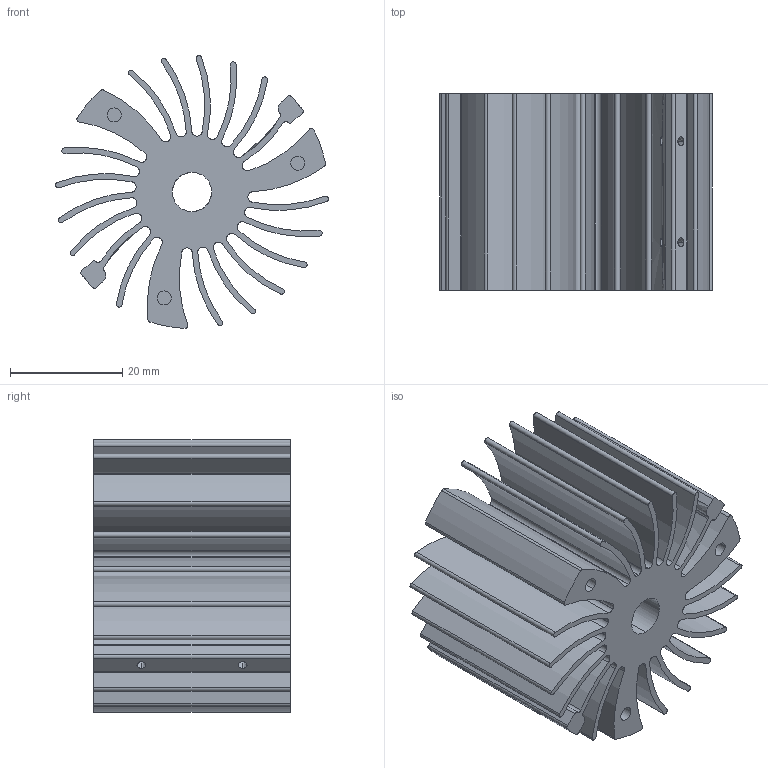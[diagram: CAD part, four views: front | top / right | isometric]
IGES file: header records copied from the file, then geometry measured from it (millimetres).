
Start section:  PTC IGES file: XSA-37.igs
Global section: file name: XSA-37.igs; native system: Creo Parametric by Parametric Technology Corporation; preprocessor: 2013050; author: brian.kuhl; organization: Unknown; date: 20140630.124157; units: millimetre
Bounding box: 48.6 x 35 x 48.6 mm (x, y, z)
Surface area: 26943.5 mm2 (no closed solid volume)
Topology: 0 solids, 0 shells, 203 faces, 1188 edges, 1188 vertices
Faces by surface type: revolution 178, bspline 25
